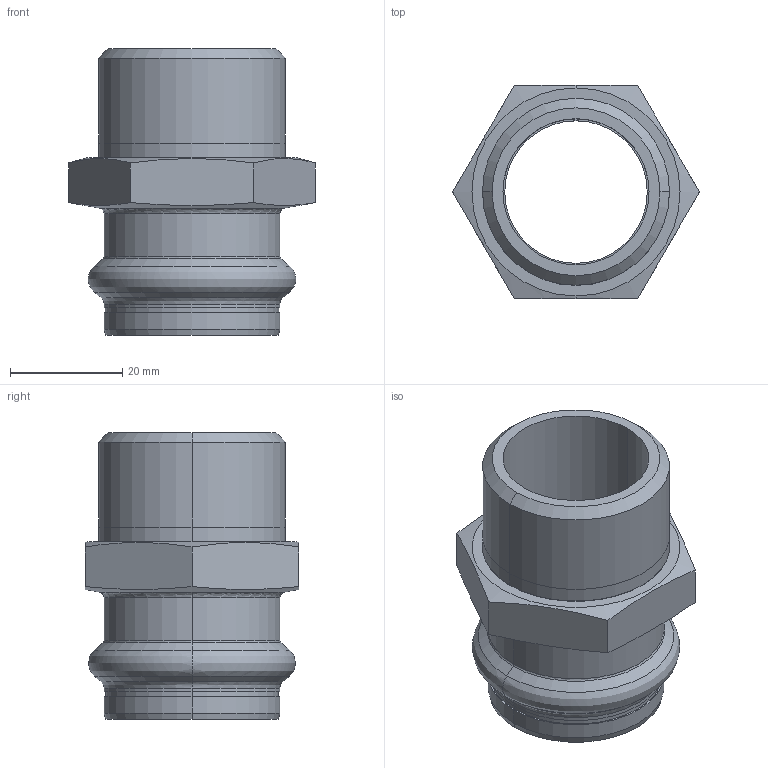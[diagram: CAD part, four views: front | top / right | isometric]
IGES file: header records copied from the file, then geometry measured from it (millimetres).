
Start section: Elysium IGES Interface
Global section: file name: C:\3d modellen sudo\C-Pr VP\SP8243GV\8243GVW281.igs; native system: CoCreate Modeling 17.00A  17-Jun-2010; preprocessor: CoCreate IGES_3D V2.2; author: Unknown; organization: Unknown; date: 20130305.103712; units: millimetre
Bounding box: 43.88 x 38 x 51 mm (x, y, z)
Volume: 17238.6 mm3; surface area: 11467.8 mm2
Topology: 1 solids, 1 shells, 59 faces, 138 edges, 80 vertices
Faces by surface type: bspline 59
